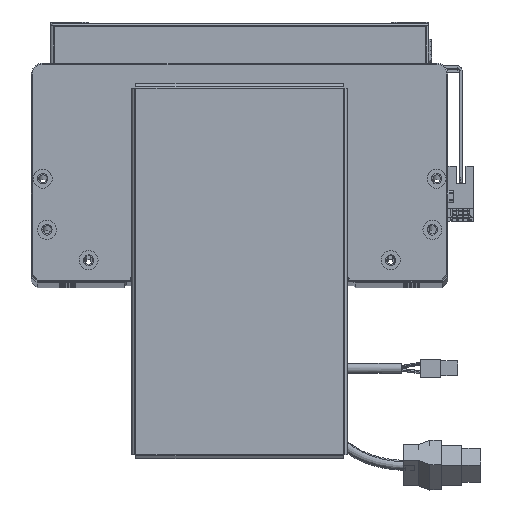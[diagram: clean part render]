
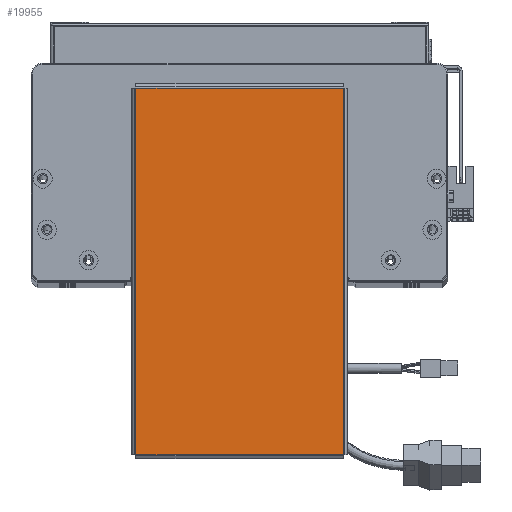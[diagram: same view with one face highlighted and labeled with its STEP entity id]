
A CAD part, top view. The second image highlights one B-rep face of the part: STEP entity #19955.
In plain terms, the highlighted planar face has unit normal (0, 0, 1).
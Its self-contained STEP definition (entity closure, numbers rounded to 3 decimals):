
#47 = DIRECTION ( 'NONE',  ( 0., 1., 0. ) ) ;
#242 = VECTOR ( 'NONE', #37688, 1000. ) ;
#989 = VERTEX_POINT ( 'NONE', #63259 ) ;
#2521 = CARTESIAN_POINT ( 'NONE',  ( -96.763, 54.793, 0. ) ) ;
#4765 = EDGE_CURVE ( 'NONE', #15462, #989, #58908, .T. ) ;
#10788 = PLANE ( 'NONE',  #59952 ) ;
#12085 = VECTOR ( 'NONE', #47, 1000. ) ;
#12828 = EDGE_LOOP ( 'NONE', ( #26126, #36733, #35635, #47434 ) ) ;
#15462 = VERTEX_POINT ( 'NONE', #39799 ) ;
#15655 = VECTOR ( 'NONE', #35342, 1000. ) ;
#16779 = DIRECTION ( 'NONE',  ( 0., 0., 1. ) ) ;
#17618 = LINE ( 'NONE', #2521, #242 ) ;
#18171 = CARTESIAN_POINT ( 'NONE',  ( 96.763, 54.763, 0. ) ) ;
#19955 = ADVANCED_FACE ( 'NONE', ( #61607 ), #10788, .T. ) ;
#21506 = CARTESIAN_POINT ( 'NONE',  ( 96.763, -54.793, 0. ) ) ;
#26126 = ORIENTED_EDGE ( 'NONE', *, *, #4765, .T. ) ;
#29729 = EDGE_CURVE ( 'NONE', #53416, #15462, #17618, .T. ) ;
#31252 = DIRECTION ( 'NONE',  ( 1., 0., 0. ) ) ;
#35342 = DIRECTION ( 'NONE',  ( -1., 0., 0. ) ) ;
#35635 = ORIENTED_EDGE ( 'NONE', *, *, #46400, .T. ) ;
#36733 = ORIENTED_EDGE ( 'NONE', *, *, #67365, .T. ) ;
#37042 = LINE ( 'NONE', #56806, #15655 ) ;
#37688 = DIRECTION ( 'NONE',  ( 0., -1., 0. ) ) ;
#39799 = CARTESIAN_POINT ( 'NONE',  ( -96.763, -54.763, 0. ) ) ;
#42344 = CARTESIAN_POINT ( 'NONE',  ( -96.793, -54.763, 0. ) ) ;
#46400 = EDGE_CURVE ( 'NONE', #64180, #53416, #37042, .T. ) ;
#47434 = ORIENTED_EDGE ( 'NONE', *, *, #29729, .T. ) ;
#48303 = CARTESIAN_POINT ( 'NONE',  ( 0., 0., 0. ) ) ;
#53121 = VECTOR ( 'NONE', #31252, 1000. ) ;
#53416 = VERTEX_POINT ( 'NONE', #62014 ) ;
#53618 = DIRECTION ( 'NONE',  ( 1., 0., 0. ) ) ;
#56806 = CARTESIAN_POINT ( 'NONE',  ( 96.793, 54.763, 0. ) ) ;
#58908 = LINE ( 'NONE', #42344, #53121 ) ;
#59895 = LINE ( 'NONE', #21506, #12085 ) ;
#59952 = AXIS2_PLACEMENT_3D ( 'NONE', #48303, #16779, #53618 ) ;
#61607 = FACE_OUTER_BOUND ( 'NONE', #12828, .T. ) ;
#62014 = CARTESIAN_POINT ( 'NONE',  ( -96.763, 54.763, 0. ) ) ;
#63259 = CARTESIAN_POINT ( 'NONE',  ( 96.763, -54.763, 0. ) ) ;
#64180 = VERTEX_POINT ( 'NONE', #18171 ) ;
#67365 = EDGE_CURVE ( 'NONE', #989, #64180, #59895, .T. ) ;
